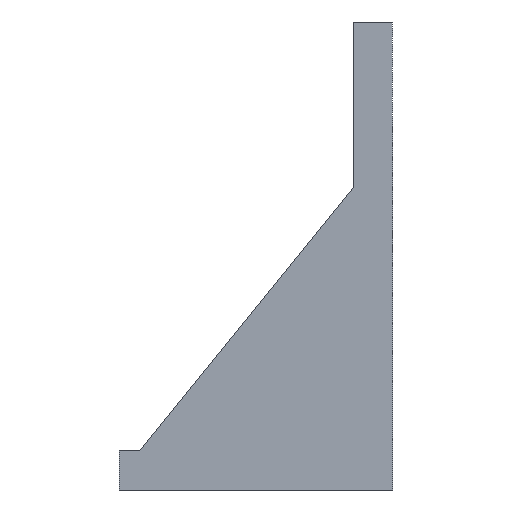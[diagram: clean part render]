
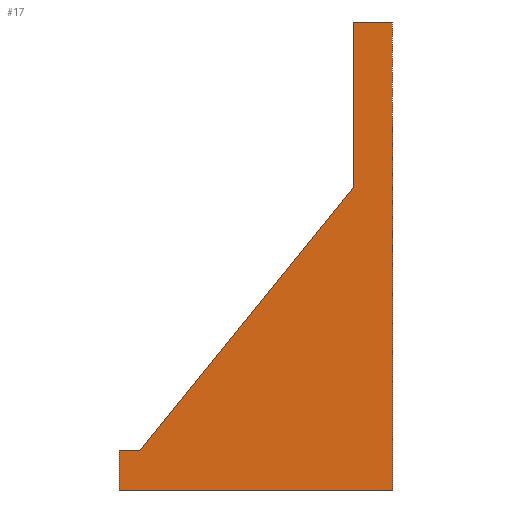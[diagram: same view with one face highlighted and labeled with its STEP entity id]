
A CAD part, left-side view. The second image highlights one B-rep face of the part: STEP entity #17.
In plain terms, the highlighted planar face has unit normal (-1, 0, 0).
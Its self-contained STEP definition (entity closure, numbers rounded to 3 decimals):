
#17 = ADVANCED_FACE('',(#18),#32,.F.);
#18 = FACE_BOUND('',#19,.F.);
#19 = EDGE_LOOP('',(#20,#55,#83,#111,#139,#167,#195));
#20 = ORIENTED_EDGE('',*,*,#21,.F.);
#21 = EDGE_CURVE('',#22,#24,#26,.T.);
#22 = VERTEX_POINT('',#23);
#23 = CARTESIAN_POINT('',(-30.,-14.,0.));
#24 = VERTEX_POINT('',#25);
#25 = CARTESIAN_POINT('',(-30.,-14.,48.));
#26 = SURFACE_CURVE('',#27,(#31,#43),.PCURVE_S1.);
#27 = LINE('',#28,#29);
#28 = CARTESIAN_POINT('',(-30.,-14.,0.));
#29 = VECTOR('',#30,1.);
#30 = DIRECTION('',(0.,0.,1.));
#31 = PCURVE('',#32,#37);
#32 = PLANE('',#33);
#33 = AXIS2_PLACEMENT_3D('',#34,#35,#36);
#34 = CARTESIAN_POINT('',(-30.,-14.,0.));
#35 = DIRECTION('',(1.,0.,0.));
#36 = DIRECTION('',(0.,0.,1.));
#37 = DEFINITIONAL_REPRESENTATION('',(#38),#42);
#38 = LINE('',#39,#40);
#39 = CARTESIAN_POINT('',(0.,0.));
#40 = VECTOR('',#41,1.);
#41 = DIRECTION('',(1.,0.));
#42 = ( GEOMETRIC_REPRESENTATION_CONTEXT(2) 
PARAMETRIC_REPRESENTATION_CONTEXT() REPRESENTATION_CONTEXT('2D SPACE',''
  ) );
#43 = PCURVE('',#44,#49);
#44 = PLANE('',#45);
#45 = AXIS2_PLACEMENT_3D('',#46,#47,#48);
#46 = CARTESIAN_POINT('',(-30.,-14.,0.));
#47 = DIRECTION('',(0.,1.,0.));
#48 = DIRECTION('',(0.,0.,1.));
#49 = DEFINITIONAL_REPRESENTATION('',(#50),#54);
#50 = LINE('',#51,#52);
#51 = CARTESIAN_POINT('',(0.,0.));
#52 = VECTOR('',#53,1.);
#53 = DIRECTION('',(1.,0.));
#54 = ( GEOMETRIC_REPRESENTATION_CONTEXT(2) 
PARAMETRIC_REPRESENTATION_CONTEXT() REPRESENTATION_CONTEXT('2D SPACE',''
  ) );
#55 = ORIENTED_EDGE('',*,*,#56,.F.);
#56 = EDGE_CURVE('',#57,#22,#59,.T.);
#57 = VERTEX_POINT('',#58);
#58 = CARTESIAN_POINT('',(-30.,14.,0.));
#59 = SURFACE_CURVE('',#60,(#64,#71),.PCURVE_S1.);
#60 = LINE('',#61,#62);
#61 = CARTESIAN_POINT('',(-30.,14.,0.));
#62 = VECTOR('',#63,1.);
#63 = DIRECTION('',(0.,-1.,0.));
#64 = PCURVE('',#32,#65);
#65 = DEFINITIONAL_REPRESENTATION('',(#66),#70);
#66 = LINE('',#67,#68);
#67 = CARTESIAN_POINT('',(0.,-28.));
#68 = VECTOR('',#69,1.);
#69 = DIRECTION('',(0.,1.));
#70 = ( GEOMETRIC_REPRESENTATION_CONTEXT(2) 
PARAMETRIC_REPRESENTATION_CONTEXT() REPRESENTATION_CONTEXT('2D SPACE',''
  ) );
#71 = PCURVE('',#72,#77);
#72 = PLANE('',#73);
#73 = AXIS2_PLACEMENT_3D('',#74,#75,#76);
#74 = CARTESIAN_POINT('',(-30.,-14.,0.));
#75 = DIRECTION('',(0.,0.,1.));
#76 = DIRECTION('',(1.,0.,0.));
#77 = DEFINITIONAL_REPRESENTATION('',(#78),#82);
#78 = LINE('',#79,#80);
#79 = CARTESIAN_POINT('',(0.,28.));
#80 = VECTOR('',#81,1.);
#81 = DIRECTION('',(0.,-1.));
#82 = ( GEOMETRIC_REPRESENTATION_CONTEXT(2) 
PARAMETRIC_REPRESENTATION_CONTEXT() REPRESENTATION_CONTEXT('2D SPACE',''
  ) );
#83 = ORIENTED_EDGE('',*,*,#84,.T.);
#84 = EDGE_CURVE('',#57,#85,#87,.T.);
#85 = VERTEX_POINT('',#86);
#86 = CARTESIAN_POINT('',(-30.,14.,4.));
#87 = SURFACE_CURVE('',#88,(#92,#99),.PCURVE_S1.);
#88 = LINE('',#89,#90);
#89 = CARTESIAN_POINT('',(-30.,14.,0.));
#90 = VECTOR('',#91,1.);
#91 = DIRECTION('',(0.,0.,1.));
#92 = PCURVE('',#32,#93);
#93 = DEFINITIONAL_REPRESENTATION('',(#94),#98);
#94 = LINE('',#95,#96);
#95 = CARTESIAN_POINT('',(0.,-28.));
#96 = VECTOR('',#97,1.);
#97 = DIRECTION('',(1.,0.));
#98 = ( GEOMETRIC_REPRESENTATION_CONTEXT(2) 
PARAMETRIC_REPRESENTATION_CONTEXT() REPRESENTATION_CONTEXT('2D SPACE',''
  ) );
#99 = PCURVE('',#100,#105);
#100 = PLANE('',#101);
#101 = AXIS2_PLACEMENT_3D('',#102,#103,#104);
#102 = CARTESIAN_POINT('',(-30.,14.,0.));
#103 = DIRECTION('',(0.,1.,0.));
#104 = DIRECTION('',(0.,0.,1.));
#105 = DEFINITIONAL_REPRESENTATION('',(#106),#110);
#106 = LINE('',#107,#108);
#107 = CARTESIAN_POINT('',(0.,0.));
#108 = VECTOR('',#109,1.);
#109 = DIRECTION('',(1.,0.));
#110 = ( GEOMETRIC_REPRESENTATION_CONTEXT(2) 
PARAMETRIC_REPRESENTATION_CONTEXT() REPRESENTATION_CONTEXT('2D SPACE',''
  ) );
#111 = ORIENTED_EDGE('',*,*,#112,.F.);
#112 = EDGE_CURVE('',#113,#85,#115,.T.);
#113 = VERTEX_POINT('',#114);
#114 = CARTESIAN_POINT('',(-30.,11.919,4.));
#115 = SURFACE_CURVE('',#116,(#120,#127),.PCURVE_S1.);
#116 = LINE('',#117,#118);
#117 = CARTESIAN_POINT('',(-30.,-14.,4.));
#118 = VECTOR('',#119,1.);
#119 = DIRECTION('',(0.,1.,0.));
#120 = PCURVE('',#32,#121);
#121 = DEFINITIONAL_REPRESENTATION('',(#122),#126);
#122 = LINE('',#123,#124);
#123 = CARTESIAN_POINT('',(4.,0.));
#124 = VECTOR('',#125,1.);
#125 = DIRECTION('',(0.,-1.));
#126 = ( GEOMETRIC_REPRESENTATION_CONTEXT(2) 
PARAMETRIC_REPRESENTATION_CONTEXT() REPRESENTATION_CONTEXT('2D SPACE',''
  ) );
#127 = PCURVE('',#128,#133);
#128 = PLANE('',#129);
#129 = AXIS2_PLACEMENT_3D('',#130,#131,#132);
#130 = CARTESIAN_POINT('',(-30.,-14.,4.));
#131 = DIRECTION('',(0.,0.,1.));
#132 = DIRECTION('',(1.,0.,0.));
#133 = DEFINITIONAL_REPRESENTATION('',(#134),#138);
#134 = LINE('',#135,#136);
#135 = CARTESIAN_POINT('',(0.,0.));
#136 = VECTOR('',#137,1.);
#137 = DIRECTION('',(0.,1.));
#138 = ( GEOMETRIC_REPRESENTATION_CONTEXT(2) 
PARAMETRIC_REPRESENTATION_CONTEXT() REPRESENTATION_CONTEXT('2D SPACE',''
  ) );
#139 = ORIENTED_EDGE('',*,*,#140,.T.);
#140 = EDGE_CURVE('',#113,#141,#143,.T.);
#141 = VERTEX_POINT('',#142);
#142 = CARTESIAN_POINT('',(-30.,-10.,31.));
#143 = SURFACE_CURVE('',#144,(#148,#155),.PCURVE_S1.);
#144 = LINE('',#145,#146);
#145 = CARTESIAN_POINT('',(-30.,12.,3.9));
#146 = VECTOR('',#147,1.);
#147 = DIRECTION('',(0.,-0.63,0.776));
#148 = PCURVE('',#32,#149);
#149 = DEFINITIONAL_REPRESENTATION('',(#150),#154);
#150 = LINE('',#151,#152);
#151 = CARTESIAN_POINT('',(3.9,-26.));
#152 = VECTOR('',#153,1.);
#153 = DIRECTION('',(0.776,0.63));
#154 = ( GEOMETRIC_REPRESENTATION_CONTEXT(2) 
PARAMETRIC_REPRESENTATION_CONTEXT() REPRESENTATION_CONTEXT('2D SPACE',''
  ) );
#155 = PCURVE('',#156,#161);
#156 = PLANE('',#157);
#157 = AXIS2_PLACEMENT_3D('',#158,#159,#160);
#158 = CARTESIAN_POINT('',(-30.,12.,3.9));
#159 = DIRECTION('',(0.,-0.776,-0.63));
#160 = DIRECTION('',(0.,-0.63,0.776));
#161 = DEFINITIONAL_REPRESENTATION('',(#162),#166);
#162 = LINE('',#163,#164);
#163 = CARTESIAN_POINT('',(0.,0.));
#164 = VECTOR('',#165,1.);
#165 = DIRECTION('',(1.,0.));
#166 = ( GEOMETRIC_REPRESENTATION_CONTEXT(2) 
PARAMETRIC_REPRESENTATION_CONTEXT() REPRESENTATION_CONTEXT('2D SPACE',''
  ) );
#167 = ORIENTED_EDGE('',*,*,#168,.T.);
#168 = EDGE_CURVE('',#141,#169,#171,.T.);
#169 = VERTEX_POINT('',#170);
#170 = CARTESIAN_POINT('',(-30.,-10.,48.));
#171 = SURFACE_CURVE('',#172,(#176,#183),.PCURVE_S1.);
#172 = LINE('',#173,#174);
#173 = CARTESIAN_POINT('',(-30.,-10.,0.));
#174 = VECTOR('',#175,1.);
#175 = DIRECTION('',(0.,0.,1.));
#176 = PCURVE('',#32,#177);
#177 = DEFINITIONAL_REPRESENTATION('',(#178),#182);
#178 = LINE('',#179,#180);
#179 = CARTESIAN_POINT('',(0.,-4.));
#180 = VECTOR('',#181,1.);
#181 = DIRECTION('',(1.,0.));
#182 = ( GEOMETRIC_REPRESENTATION_CONTEXT(2) 
PARAMETRIC_REPRESENTATION_CONTEXT() REPRESENTATION_CONTEXT('2D SPACE',''
  ) );
#183 = PCURVE('',#184,#189);
#184 = PLANE('',#185);
#185 = AXIS2_PLACEMENT_3D('',#186,#187,#188);
#186 = CARTESIAN_POINT('',(-30.,-10.,0.));
#187 = DIRECTION('',(0.,1.,0.));
#188 = DIRECTION('',(0.,0.,1.));
#189 = DEFINITIONAL_REPRESENTATION('',(#190),#194);
#190 = LINE('',#191,#192);
#191 = CARTESIAN_POINT('',(0.,0.));
#192 = VECTOR('',#193,1.);
#193 = DIRECTION('',(1.,0.));
#194 = ( GEOMETRIC_REPRESENTATION_CONTEXT(2) 
PARAMETRIC_REPRESENTATION_CONTEXT() REPRESENTATION_CONTEXT('2D SPACE',''
  ) );
#195 = ORIENTED_EDGE('',*,*,#196,.F.);
#196 = EDGE_CURVE('',#24,#169,#197,.T.);
#197 = SURFACE_CURVE('',#198,(#202,#209),.PCURVE_S1.);
#198 = LINE('',#199,#200);
#199 = CARTESIAN_POINT('',(-30.,-14.,48.));
#200 = VECTOR('',#201,1.);
#201 = DIRECTION('',(0.,1.,0.));
#202 = PCURVE('',#32,#203);
#203 = DEFINITIONAL_REPRESENTATION('',(#204),#208);
#204 = LINE('',#205,#206);
#205 = CARTESIAN_POINT('',(48.,0.));
#206 = VECTOR('',#207,1.);
#207 = DIRECTION('',(0.,-1.));
#208 = ( GEOMETRIC_REPRESENTATION_CONTEXT(2) 
PARAMETRIC_REPRESENTATION_CONTEXT() REPRESENTATION_CONTEXT('2D SPACE',''
  ) );
#209 = PCURVE('',#210,#215);
#210 = PLANE('',#211);
#211 = AXIS2_PLACEMENT_3D('',#212,#213,#214);
#212 = CARTESIAN_POINT('',(-30.,-14.,48.));
#213 = DIRECTION('',(0.,0.,1.));
#214 = DIRECTION('',(1.,0.,0.));
#215 = DEFINITIONAL_REPRESENTATION('',(#216),#220);
#216 = LINE('',#217,#218);
#217 = CARTESIAN_POINT('',(0.,0.));
#218 = VECTOR('',#219,1.);
#219 = DIRECTION('',(0.,1.));
#220 = ( GEOMETRIC_REPRESENTATION_CONTEXT(2) 
PARAMETRIC_REPRESENTATION_CONTEXT() REPRESENTATION_CONTEXT('2D SPACE',''
  ) );
